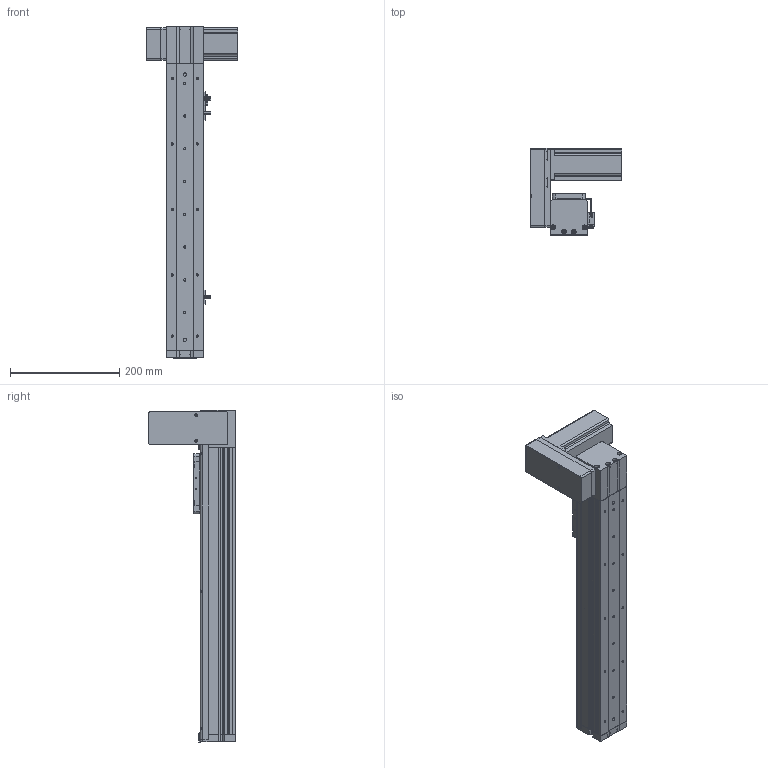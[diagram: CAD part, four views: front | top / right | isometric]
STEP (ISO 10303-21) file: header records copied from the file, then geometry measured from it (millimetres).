
FILE_DESCRIPTION (( 'STEP AP214' ), '1' );
FILE_NAME ('KSD68BS-S350-MRU-CR.STEP', '2019-11-08T05:49:57', ( '微软用户' ), ( '微软中国' ), 'SwSTEP 2.0', 'SolidWorks 2014', '' );
FILE_SCHEMA (( 'AUTOMOTIVE_DESIGN' ));
Length unit declared in the file: millimetre
Products named in the file (14): 68宽单导轨全封闭丝杆传动安装板1防护罩; KSD68BS 350行程侧板全封闭; 68宽单导轨全封闭同步带端板; 68单导轨全封闭同步带电机座右; 68单导轨全封闭同步带安装板; 悵誘欶奻狟殏; 68宽马达安装板连板上折同步带; 感应片68宽全封闭; U倰嫖萇EEㄜSX672; 68遵裔啣揤啣1; 台达ECMA－C20604AS伺服电机（400W); KSD68BS 350行程底板全封闭; KSD68BS-S350-MRU-CR; KSD68BS 350行程盖板全封闭
Assembly tree (17 placements, depth 2):
  KSD68BS-S350-MRU-CR
    KSD68BS 350行程底板全封闭
    台达ECMA－C20604AS伺服电机（400W)
    U倰嫖萇EEㄜSX672  x3
    感应片68宽全封闭
    68宽马达安装板连板上折同步带
    悵誘欶奻狟殏
    68单导轨全封闭同步带安装板
    68单导轨全封闭同步带电机座右
    68宽单导轨全封闭同步带端板
    KSD68BS 350行程侧板全封闭  x2
    68宽单导轨全封闭丝杆传动安装板1防护罩
    68遵裔啣揤啣1  x2
    KSD68BS 350行程盖板全封闭
Bounding box: 167.2 x 159.5 x 608.1 mm (x, y, z)
Volume: 1662081.3 mm3; surface area: 558445.9 mm2
Topology: 18 solids, 18 shells, 1372 faces, 3857 edges, 2481 vertices
Faces by surface type: plane 623, cylinder 617, cone 132
Entity records: 42338 total; most frequent: CARTESIAN_POINT 7067, DIRECTION 6421, ORIENTED_EDGE 6150, EDGE_CURVE 3075, AXIS2_PLACEMENT_3D 2281, VERTEX_POINT 2019, LINE 1859, VECTOR 1859
